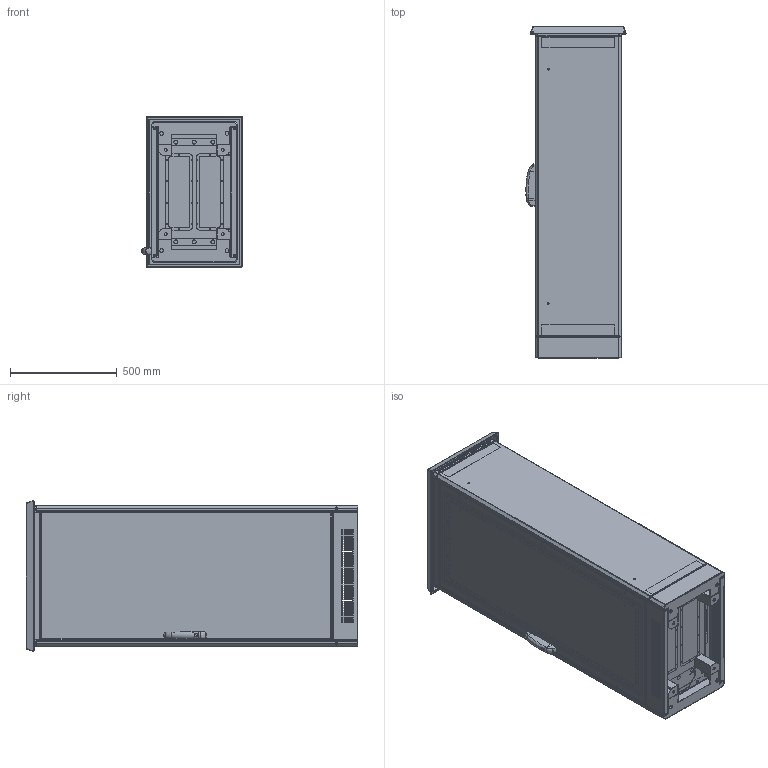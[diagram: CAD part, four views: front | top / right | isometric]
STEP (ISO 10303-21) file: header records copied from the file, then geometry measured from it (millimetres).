
FILE_DESCRIPTION (( 'STEP AP203' ), '1' );
FILE_NAME ('EVIS061404SA.STEP', '2021-03-15T14:19:43', ( '' ), ( '' ), 'SwSTEP 2.0', 'SolidWorks 2019', '' );
FILE_SCHEMA (( 'CONFIG_CONTROL_DESIGN' ));
Length unit declared in the file: millimetre
Products named in the file (8): EVIS061404SA; AR_E-VIS_Retro_EVPA_0600x1400; AR_E-VIS_Porta singola cieca_0600x1400_SA; AR_E-VIS_Assieme porta singola_0600x1400_SA; AR_ENUX_nuova_maniglia_mesan; AR_Tetto E-VIS_SA_0600x0400; AR_E-VIS_struttura_SASM_0600x1400x0400; AR_E-VIS_Zoccolo SA_0600x0400_areata
Assembly tree (7 placements, depth 3):
  EVIS061404SA
    AR_E-VIS_struttura_SASM_0600x1400x0400
    AR_Tetto E-VIS_SA_0600x0400
    AR_E-VIS_Retro_EVPA_0600x1400
    AR_E-VIS_Assieme porta singola_0600x1400_SA
      AR_E-VIS_Porta singola cieca_0600x1400_SA
      AR_ENUX_nuova_maniglia_mesan
    AR_E-VIS_Zoccolo SA_0600x0400_areata
Bounding box: 469.71 x 1556.34 x 707.9 mm (x, y, z)
Volume: 12885266.1 mm3; surface area: 11840929 mm2
Topology: 10 solids, 10 shells, 4940 faces, 13758 edges, 8896 vertices
Faces by surface type: cylinder 2491, plane 2234, sphere 124, bspline 41, torus 26, cone 24
Entity records: 166036 total; most frequent: CARTESIAN_POINT 32175, DIRECTION 28290, ORIENTED_EDGE 27240, EDGE_CURVE 13620, AXIS2_PLACEMENT_3D 9908, VERTEX_POINT 8896, LINE 8474, VECTOR 8474
